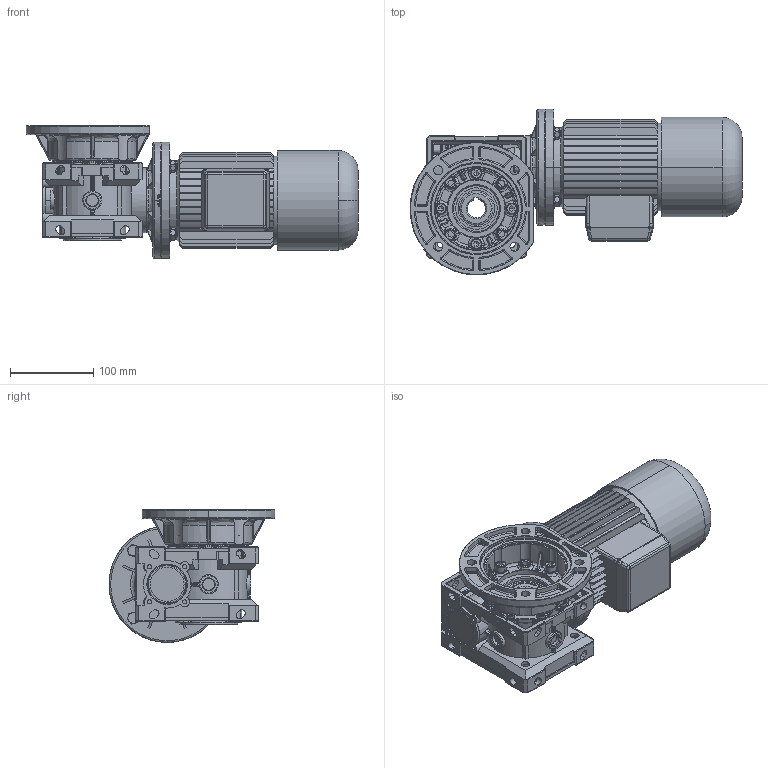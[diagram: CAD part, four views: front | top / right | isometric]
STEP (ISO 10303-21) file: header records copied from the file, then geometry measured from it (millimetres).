
FILE_DESCRIPTION((''),'2;1');
FILE_NAME('D:\_Assiemi MV\_File Sito\50\STP\MVFU50_B5-63BRAKE.stp','2005-07-27T09:58:42',('tech2'),(''),'Autodesk Inventor 9','Autodesk Inventor 9','');
FILE_SCHEMA(('AUTOMOTIVE_DESIGN { 1 0 10303 214 1 1 1 1 }'));
Length unit declared in the file: millimetre
Products named in the file (19): MVFU50_B5-63BRAKE; 4005001-A0; 4005008-A0 mozzo; 4005004-A0; Capp-47-7; Paraolio-30-55-7; Paraolio-40-56-7; TCCE-6X16-ribassata; Tappo-3-8-gas-nero; Guarnizione-tappo-3-8-gas; motori B5 brake 63; FU_MV50; UNI 5931  (Filetto regolare) M 8 x  16; FM-40-50-D=140; UNI 5739  (Filetto regolare) M8 x 25; UNI 5589  (Filetto regolare) M8; UNI 6593 9 x 17
Assembly tree (38 placements, depth 3):
  MVFU50_B5-63BRAKE
    4005001-A0
    4005008-A0 mozzo
    4005004-A0
    Capp-47-7
    Paraolio-30-55-7
    Paraolio-40-56-7  x2
    TCCE-6X16-ribassata  x8
    Tappo-3-8-gas-nero
    Guarnizione-tappo-3-8-gas
    motori B5 brake 63
    FU_MV50
      FU_MV50
      UNI 5931  (Filetto regolare) M 8 x  16  x4
    FM-40-50-D=140
      FM-40-50-D=140
      UNI 5739  (Filetto regolare) M8 x 25  x4
      UNI 5589  (Filetto regolare) M8  x4
      UNI 6593 9 x 17  x4
Bounding box: 400 x 200 x 160 mm (x, y, z)
Volume: 2974060.6 mm3; surface area: 581943.9 mm2
Topology: 37 solids, 39 shells, 4469 faces, 11422 edges, 7126 vertices
Faces by surface type: cylinder 1524, plane 1451, bspline 966, cone 308, torus 212, sphere 8
Entity records: 150615 total; most frequent: CARTESIAN_POINT 54085, ORIENTED_EDGE 20702, DIRECTION 19750, EDGE_CURVE 10351, AXIS2_PLACEMENT_3D 7445, VERTEX_POINT 6534, VECTOR 4860, LINE 4860
